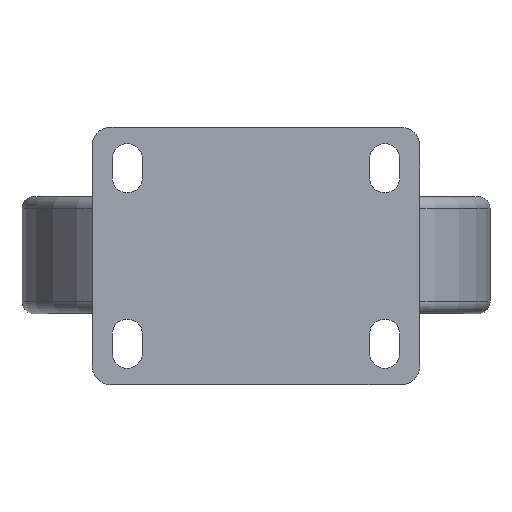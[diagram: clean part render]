
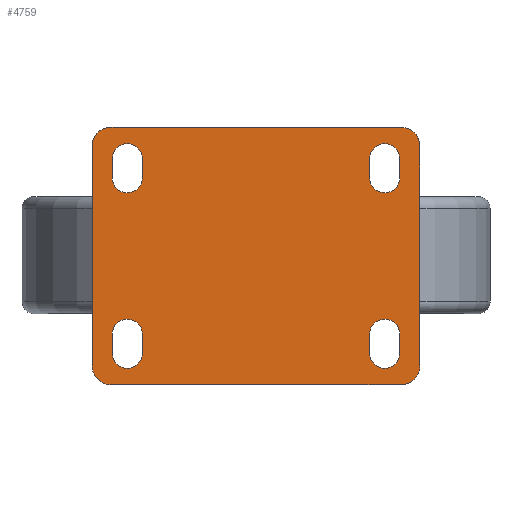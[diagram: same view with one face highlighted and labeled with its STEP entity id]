
A CAD part, top view. The second image highlights one B-rep face of the part: STEP entity #4759.
In plain terms, the highlighted planar face has unit normal (0, 0, 1).
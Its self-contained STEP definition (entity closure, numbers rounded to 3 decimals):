
#608=(
BOUNDED_CURVE()
B_SPLINE_CURVE(3,(#63529,#63530,#63531,#63532,#63533,#63534,#63535,#63536,
#63537,#63538,#63539,#63540,#63541,#63542,#63543,#63544),.UNSPECIFIED.,.F.,
 .F.)
B_SPLINE_CURVE_WITH_KNOTS((4,3,3,3,3,4),(0.,0.342,0.383,
0.746,0.779,1.),.UNSPECIFIED.)
CURVE()
GEOMETRIC_REPRESENTATION_ITEM()
RATIONAL_B_SPLINE_CURVE((0.586,0.586,0.586,
0.586,0.471,0.471,0.586,
0.586,0.586,0.586,0.471,
0.471,0.586,0.586,0.586,
0.586))
REPRESENTATION_ITEM('')
);
#611=(
BOUNDED_CURVE()
B_SPLINE_CURVE(3,(#63583,#63584,#63585,#63586,#63587,#63588,#63589,#63590,
#63591,#63592),.UNSPECIFIED.,.F.,.F.)
B_SPLINE_CURVE_WITH_KNOTS((4,3,3,4),(0.,0.094,0.924,
1.),.UNSPECIFIED.)
CURVE()
GEOMETRIC_REPRESENTATION_ITEM()
RATIONAL_B_SPLINE_CURVE((0.586,0.471,0.471,
0.586,0.586,0.586,0.586,
0.471,0.471,0.586))
REPRESENTATION_ITEM('')
);
#4759=ADVANCED_FACE('',(#9191,#9192,#9193,#9194,#9195),#7450,.F.);
#7450=PLANE('',#47616);
#9191=FACE_BOUND('',#9404,.T.);
#9192=FACE_BOUND('',#9405,.T.);
#9193=FACE_BOUND('',#9406,.T.);
#9194=FACE_BOUND('',#9407,.T.);
#9195=FACE_BOUND('',#9408,.T.);
#9404=EDGE_LOOP('',(#13849,#13850,#13851,#13852));
#9405=EDGE_LOOP('',(#13853,#13854,#13855,#13856));
#9406=EDGE_LOOP('',(#13857,#13858,#13859,#13860));
#9407=EDGE_LOOP('',(#13861,#13862,#13863,#13864));
#9408=EDGE_LOOP('',(#13865,#13866));
#12219=CIRCLE('',#47588,6.5);
#12221=CIRCLE('',#47592,6.5);
#12223=CIRCLE('',#47595,6.5);
#12225=CIRCLE('',#47599,6.5);
#12227=CIRCLE('',#47603,6.5);
#12229=CIRCLE('',#47607,6.5);
#12231=CIRCLE('',#47612,6.5);
#12232=CIRCLE('',#47615,6.5);
#13849=ORIENTED_EDGE('',*,*,#31683,.F.);
#13850=ORIENTED_EDGE('',*,*,#31684,.F.);
#13851=ORIENTED_EDGE('',*,*,#31676,.F.);
#13852=ORIENTED_EDGE('',*,*,#31680,.F.);
#13853=ORIENTED_EDGE('',*,*,#31671,.F.);
#13854=ORIENTED_EDGE('',*,*,#31673,.T.);
#13855=ORIENTED_EDGE('',*,*,#31664,.T.);
#13856=ORIENTED_EDGE('',*,*,#31668,.T.);
#13857=ORIENTED_EDGE('',*,*,#31659,.T.);
#13858=ORIENTED_EDGE('',*,*,#31661,.F.);
#13859=ORIENTED_EDGE('',*,*,#31652,.F.);
#13860=ORIENTED_EDGE('',*,*,#31656,.F.);
#13861=ORIENTED_EDGE('',*,*,#31647,.F.);
#13862=ORIENTED_EDGE('',*,*,#31649,.F.);
#13863=ORIENTED_EDGE('',*,*,#31640,.F.);
#13864=ORIENTED_EDGE('',*,*,#31644,.F.);
#13865=ORIENTED_EDGE('',*,*,#31636,.T.);
#13866=ORIENTED_EDGE('',*,*,#31632,.T.);
#27543=VERTEX_POINT('',#63545);
#27544=VERTEX_POINT('',#63546);
#27549=VERTEX_POINT('',#63617);
#27550=VERTEX_POINT('',#63619);
#27552=VERTEX_POINT('',#63625);
#27554=VERTEX_POINT('',#63631);
#27557=VERTEX_POINT('',#63641);
#27558=VERTEX_POINT('',#63643);
#27560=VERTEX_POINT('',#63649);
#27562=VERTEX_POINT('',#63655);
#27565=VERTEX_POINT('',#63665);
#27566=VERTEX_POINT('',#63667);
#27568=VERTEX_POINT('',#63673);
#27570=VERTEX_POINT('',#63679);
#27573=VERTEX_POINT('',#63689);
#27574=VERTEX_POINT('',#63691);
#27576=VERTEX_POINT('',#63697);
#27578=VERTEX_POINT('',#63703);
#31632=EDGE_CURVE('',#27543,#27544,#608,.T.);
#31636=EDGE_CURVE('',#27544,#27543,#611,.T.);
#31640=EDGE_CURVE('',#27549,#27550,#38388,.T.);
#31644=EDGE_CURVE('',#27552,#27549,#12219,.T.);
#31647=EDGE_CURVE('',#27554,#27552,#38393,.T.);
#31649=EDGE_CURVE('',#27550,#27554,#12221,.T.);
#31652=EDGE_CURVE('',#27557,#27558,#12223,.T.);
#31656=EDGE_CURVE('',#27560,#27557,#38398,.T.);
#31659=EDGE_CURVE('',#27560,#27562,#12225,.T.);
#31661=EDGE_CURVE('',#27558,#27562,#38401,.T.);
#31664=EDGE_CURVE('',#27566,#27565,#12227,.T.);
#31668=EDGE_CURVE('',#27565,#27568,#38406,.T.);
#31671=EDGE_CURVE('',#27570,#27568,#12229,.T.);
#31673=EDGE_CURVE('',#27570,#27566,#38409,.T.);
#31676=EDGE_CURVE('',#27573,#27574,#38412,.T.);
#31680=EDGE_CURVE('',#27576,#27573,#12231,.T.);
#31683=EDGE_CURVE('',#27578,#27576,#38417,.T.);
#31684=EDGE_CURVE('',#27574,#27578,#12232,.T.);
#38388=LINE('',#63618,#42987);
#38393=LINE('',#63632,#42992);
#38398=LINE('',#63650,#42997);
#38401=LINE('',#63659,#43000);
#38406=LINE('',#63674,#43005);
#38409=LINE('',#63683,#43008);
#38412=LINE('',#63690,#43011);
#38417=LINE('',#63704,#43016);
#42987=VECTOR('',#51331,1.);
#42992=VECTOR('',#51344,1.);
#42997=VECTOR('',#51363,1.);
#43000=VECTOR('',#51374,1.);
#43005=VECTOR('',#51387,1.);
#43008=VECTOR('',#51398,1.);
#43011=VECTOR('',#51403,1.);
#43016=VECTOR('',#51416,1.);
#47588=AXIS2_PLACEMENT_3D('',#63626,#51338,#51339);
#47592=AXIS2_PLACEMENT_3D('',#63635,#51349,#51350);
#47595=AXIS2_PLACEMENT_3D('',#63642,#51356,#51357);
#47599=AXIS2_PLACEMENT_3D('',#63656,#51369,#51370);
#47603=AXIS2_PLACEMENT_3D('',#63666,#51380,#51381);
#47607=AXIS2_PLACEMENT_3D('',#63680,#51393,#51394);
#47612=AXIS2_PLACEMENT_3D('',#63698,#51410,#51411);
#47615=AXIS2_PLACEMENT_3D('',#63706,#51419,#51420);
#47616=AXIS2_PLACEMENT_3D('',#63707,#51421,#51422);
#51331=DIRECTION('',(0.,1.,0.));
#51338=DIRECTION('',(0.,0.,1.));
#51339=DIRECTION('',(1.,0.,0.));
#51344=DIRECTION('',(0.,-1.,0.));
#51349=DIRECTION('',(0.,0.,1.));
#51350=DIRECTION('',(1.,0.,0.));
#51356=DIRECTION('',(0.,0.,1.));
#51357=DIRECTION('',(1.,0.,0.));
#51363=DIRECTION('',(0.,1.,0.));
#51369=DIRECTION('',(0.,0.,-1.));
#51370=DIRECTION('',(1.,0.,0.));
#51374=DIRECTION('',(0.,-1.,0.));
#51380=DIRECTION('',(0.,0.,-1.));
#51381=DIRECTION('',(1.,0.,0.));
#51387=DIRECTION('',(0.,-1.,0.));
#51393=DIRECTION('',(0.,0.,1.));
#51394=DIRECTION('',(1.,0.,0.));
#51398=DIRECTION('',(0.,1.,0.));
#51403=DIRECTION('',(0.,1.,0.));
#51410=DIRECTION('',(0.,0.,1.));
#51411=DIRECTION('',(1.,0.,0.));
#51416=DIRECTION('',(0.,-1.,0.));
#51419=DIRECTION('',(0.,0.,1.));
#51420=DIRECTION('',(1.,0.,0.));
#51421=DIRECTION('',(0.,0.,-1.));
#51422=DIRECTION('',(-1.,0.,0.));
#63529=CARTESIAN_POINT('',(70.,-47.,126.));
#63530=CARTESIAN_POINT('',(70.,-15.667,126.));
#63531=CARTESIAN_POINT('',(70.,15.667,126.));
#63532=CARTESIAN_POINT('',(70.,47.,126.));
#63533=CARTESIAN_POINT('',(70.,51.686,126.));
#63534=CARTESIAN_POINT('',(66.686,55.,126.));
#63535=CARTESIAN_POINT('',(62.,55.,126.));
#63536=CARTESIAN_POINT('',(20.667,55.,126.));
#63537=CARTESIAN_POINT('',(-20.667,55.,126.));
#63538=CARTESIAN_POINT('',(-62.,55.,126.));
#63539=CARTESIAN_POINT('',(-66.686,55.,126.));
#63540=CARTESIAN_POINT('',(-70.,51.686,126.));
#63541=CARTESIAN_POINT('',(-70.,47.,126.));
#63542=CARTESIAN_POINT('',(-70.,15.667,126.));
#63543=CARTESIAN_POINT('',(-70.,-15.667,126.));
#63544=CARTESIAN_POINT('',(-70.,-47.,126.));
#63545=CARTESIAN_POINT('',(70.,-47.,126.));
#63546=CARTESIAN_POINT('',(-70.,-47.,126.));
#63583=CARTESIAN_POINT('',(-70.,-47.,126.));
#63584=CARTESIAN_POINT('',(-70.,-51.686,126.));
#63585=CARTESIAN_POINT('',(-66.686,-55.,126.));
#63586=CARTESIAN_POINT('',(-62.,-55.,126.));
#63587=CARTESIAN_POINT('',(-20.667,-55.,126.));
#63588=CARTESIAN_POINT('',(20.667,-55.,126.));
#63589=CARTESIAN_POINT('',(62.,-55.,126.));
#63590=CARTESIAN_POINT('',(66.686,-55.,126.));
#63591=CARTESIAN_POINT('',(70.,-51.686,126.));
#63592=CARTESIAN_POINT('',(70.,-47.,126.));
#63617=CARTESIAN_POINT('',(61.5,-41.5,126.));
#63618=CARTESIAN_POINT('',(61.5,-55.,126.));
#63619=CARTESIAN_POINT('',(61.5,-33.5,126.));
#63625=CARTESIAN_POINT('',(48.5,-41.5,126.));
#63626=CARTESIAN_POINT('',(55.,-41.5,126.));
#63631=CARTESIAN_POINT('',(48.5,-33.5,126.));
#63632=CARTESIAN_POINT('',(48.5,-55.,126.));
#63635=CARTESIAN_POINT('',(55.,-33.5,126.));
#63641=CARTESIAN_POINT('',(61.5,41.5,126.));
#63642=CARTESIAN_POINT('',(55.,41.5,126.));
#63643=CARTESIAN_POINT('',(48.5,41.5,126.));
#63649=CARTESIAN_POINT('',(61.5,33.5,126.));
#63650=CARTESIAN_POINT('',(61.5,-55.,126.));
#63655=CARTESIAN_POINT('',(48.5,33.5,126.));
#63656=CARTESIAN_POINT('',(55.,33.5,126.));
#63659=CARTESIAN_POINT('',(48.5,-55.,126.));
#63665=CARTESIAN_POINT('',(-48.5,41.5,126.));
#63666=CARTESIAN_POINT('',(-55.,41.5,126.));
#63667=CARTESIAN_POINT('',(-61.5,41.5,126.));
#63673=CARTESIAN_POINT('',(-48.5,33.5,126.));
#63674=CARTESIAN_POINT('',(-48.5,-55.,126.));
#63679=CARTESIAN_POINT('',(-61.5,33.5,126.));
#63680=CARTESIAN_POINT('',(-55.,33.5,126.));
#63683=CARTESIAN_POINT('',(-61.5,-55.,126.));
#63689=CARTESIAN_POINT('',(-48.5,-41.5,126.));
#63690=CARTESIAN_POINT('',(-48.5,-55.,126.));
#63691=CARTESIAN_POINT('',(-48.5,-33.5,126.));
#63697=CARTESIAN_POINT('',(-61.5,-41.5,126.));
#63698=CARTESIAN_POINT('',(-55.,-41.5,126.));
#63703=CARTESIAN_POINT('',(-61.5,-33.5,126.));
#63704=CARTESIAN_POINT('',(-61.5,-55.,126.));
#63706=CARTESIAN_POINT('',(-55.,-33.5,126.));
#63707=CARTESIAN_POINT('',(-1.373,-55.,126.));
